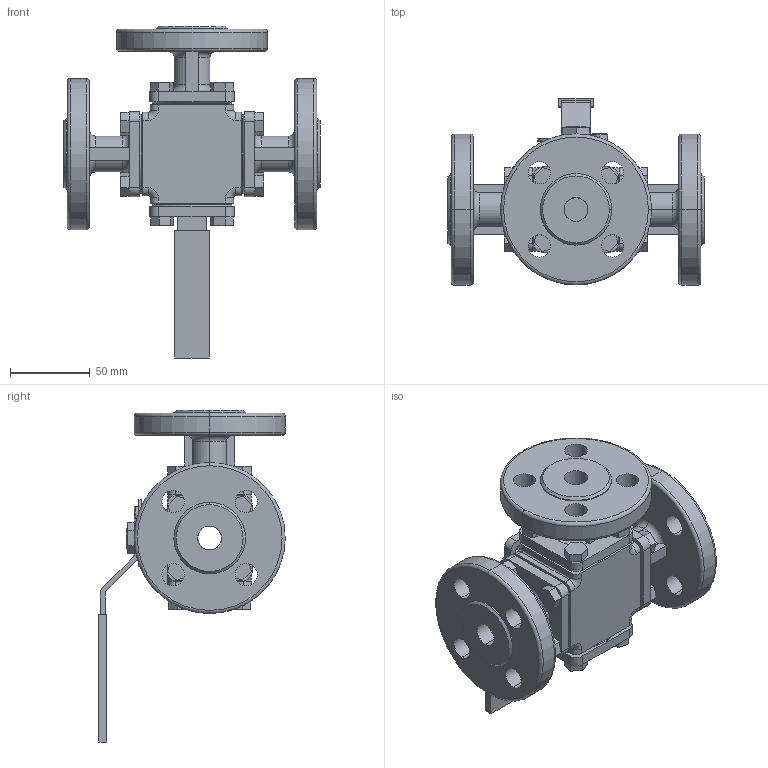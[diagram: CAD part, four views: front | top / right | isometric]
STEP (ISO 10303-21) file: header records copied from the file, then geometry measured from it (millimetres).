
FILE_DESCRIPTION (( 'STEP AP214' ), '1' );
FILE_NAME ('S316D DN15 HB.step', '2011-04-20T13:23:47', ( '' ), ( '' ), 'SwSTEP 2.0', 'SolidWorks 2011', '' );
FILE_SCHEMA (( 'AUTOMOTIVE_DESIGN' ));
Length unit declared in the file: millimetre
Products named in the file (7): S316D Flange end DN15; S316D Blindflens DN15; Hex Nut Style 1 GradeAB_DIN_Hexagon Nut ISO 4032 - M6 - D - N; Socket Head Cap Screw_DIN_DIN 912 M6 x 16 --- 16N; S316D Hendel DN15; S316D KK DN15 PN16; S316D DN15 HB
Assembly tree (8 placements, depth 2):
  S316D DN15 HB
    S316D Flange end DN15  x3
    S316D Blindflens DN15
    Hex Nut Style 1 GradeAB_DIN_Hexagon Nut ISO 4032 - M6 - D - N
    S316D Hendel DN15
    Socket Head Cap Screw_DIN_DIN 912 M6 x 16 --- 16N
    S316D KK DN15 PN16
Bounding box: 161 x 117.21 x 208.71 mm (x, y, z)
Volume: 641435.9 mm3; surface area: 148485.1 mm2
Topology: 8 solids, 9 shells, 618 faces, 1552 edges, 990 vertices
Faces by surface type: plane 355, cylinder 179, cone 42, torus 42
Entity records: 14072 total; most frequent: CARTESIAN_POINT 2587, DIRECTION 2383, ORIENTED_EDGE 2264, EDGE_CURVE 1132, AXIS2_PLACEMENT_3D 830, VECTOR 723, LINE 723, VERTEX_POINT 718
